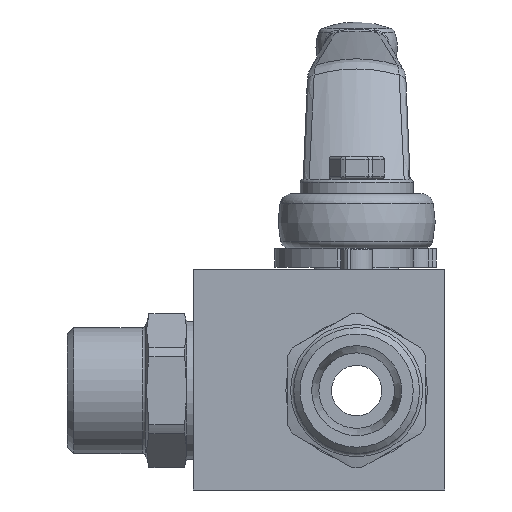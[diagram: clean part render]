
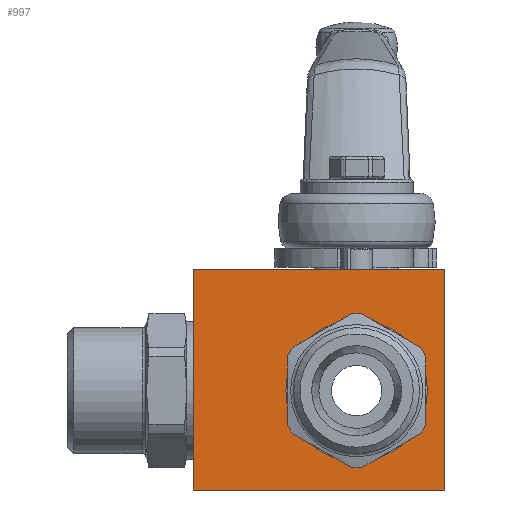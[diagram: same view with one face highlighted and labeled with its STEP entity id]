
A CAD part, front view. The second image highlights one B-rep face of the part: STEP entity #997.
In plain terms, the highlighted planar face has unit normal (0, -1, 0).
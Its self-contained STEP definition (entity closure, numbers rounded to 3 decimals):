
#997 = ADVANCED_FACE( '', ( #2077, #2078 ), #2079, .T. );
#2077 = FACE_OUTER_BOUND( '', #3824, .T. );
#2078 = FACE_BOUND( '', #3825, .T. );
#2079 = PLANE( '', #3826 );
#3824 = EDGE_LOOP( '', ( #6584, #6585, #6586, #6587 ) );
#3825 = EDGE_LOOP( '', ( #6588 ) );
#3826 = AXIS2_PLACEMENT_3D( '', #6589, #6590, #6591 );
#6584 = ORIENTED_EDGE( '', *, *, #8317, .T. );
#6585 = ORIENTED_EDGE( '', *, *, #8749, .T. );
#6586 = ORIENTED_EDGE( '', *, *, #8750, .T. );
#6587 = ORIENTED_EDGE( '', *, *, #7936, .T. );
#6588 = ORIENTED_EDGE( '', *, *, #8751, .T. );
#6589 = CARTESIAN_POINT( '', ( -26., -17.5, -15.8 ) );
#6590 = DIRECTION( '', ( 0., -1., 0. ) );
#6591 = DIRECTION( '', ( 0., 0., -1. ) );
#7936 = EDGE_CURVE( '', #9162, #9160, #9163, .T. );
#8317 = EDGE_CURVE( '', #9160, #9810, #9812, .T. );
#8749 = EDGE_CURVE( '', #9810, #10418, #10419, .T. );
#8750 = EDGE_CURVE( '', #10418, #9162, #10420, .T. );
#8751 = EDGE_CURVE( '', #10421, #10421, #10422, .T. );
#9160 = VERTEX_POINT( '', #10973 );
#9162 = VERTEX_POINT( '', #10976 );
#9163 = LINE( '', #10977, #10978 );
#9810 = VERTEX_POINT( '', #12240 );
#9812 = LINE( '', #12243, #12244 );
#10418 = VERTEX_POINT( '', #13659 );
#10419 = LINE( '', #13660, #13661 );
#10420 = LINE( '', #13662, #13663 );
#10421 = VERTEX_POINT( '', #13664 );
#10422 = CIRCLE( '', #13665, 11.25 );
#10973 = CARTESIAN_POINT( '', ( -26., -17.5, 19.2 ) );
#10976 = CARTESIAN_POINT( '', ( 14., -17.5, 19.2 ) );
#10977 = CARTESIAN_POINT( '', ( 14., -17.5, 19.2 ) );
#10978 = VECTOR( '', #14389, 1000. );
#12240 = CARTESIAN_POINT( '', ( -26., -17.5, -15.8 ) );
#12243 = CARTESIAN_POINT( '', ( -26., -17.5, 19.2 ) );
#12244 = VECTOR( '', #14894, 1000. );
#13659 = CARTESIAN_POINT( '', ( 14., -17.5, -15.8 ) );
#13660 = CARTESIAN_POINT( '', ( -26., -17.5, -15.8 ) );
#13661 = VECTOR( '', #15412, 1000. );
#13662 = CARTESIAN_POINT( '', ( 14., -17.5, -15.8 ) );
#13663 = VECTOR( '', #15413, 1000. );
#13664 = CARTESIAN_POINT( '', ( 11.25, -17.5, 0. ) );
#13665 = AXIS2_PLACEMENT_3D( '', #15414, #15415, #15416 );
#14389 = DIRECTION( '', ( -1., 0., 0. ) );
#14894 = DIRECTION( '', ( 0., 0., -1. ) );
#15412 = DIRECTION( '', ( 1., 0., 0. ) );
#15413 = DIRECTION( '', ( 0., 0., 1. ) );
#15414 = CARTESIAN_POINT( '', ( 0., -17.5, 0. ) );
#15415 = DIRECTION( '', ( 0., 1., 0. ) );
#15416 = DIRECTION( '', ( 1., 0., 0. ) );
